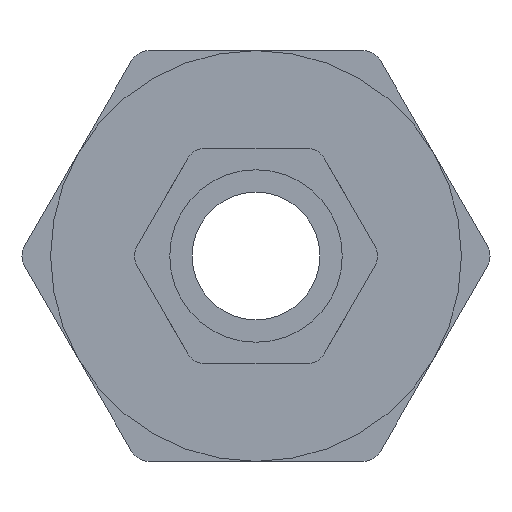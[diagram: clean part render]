
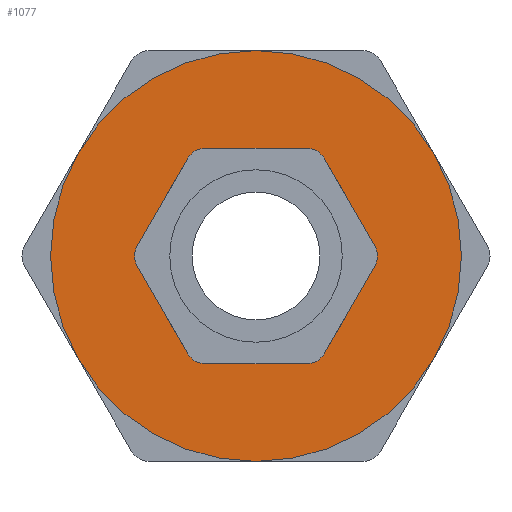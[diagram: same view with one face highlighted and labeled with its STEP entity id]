
A CAD part, left-side view. The second image highlights one B-rep face of the part: STEP entity #1077.
In plain terms, the highlighted planar face has unit normal (-1, 0, 0).
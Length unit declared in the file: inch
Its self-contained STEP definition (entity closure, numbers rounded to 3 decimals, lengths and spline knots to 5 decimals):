
#14=FACE_BOUND('',#184,.T.);
#62=CIRCLE('',#1176,1.);
#63=CIRCLE('',#1177,0.525);
#124=FACE_OUTER_BOUND('',#183,.T.);
#183=EDGE_LOOP('',(#738));
#184=EDGE_LOOP('',(#739));
#439=VERTEX_POINT('',#1695);
#440=VERTEX_POINT('',#1697);
#556=EDGE_CURVE('',#439,#439,#62,.T.);
#557=EDGE_CURVE('',#440,#440,#63,.T.);
#738=ORIENTED_EDGE('',*,*,#556,.T.);
#739=ORIENTED_EDGE('',*,*,#557,.F.);
#975=PLANE('',#1175);
#1077=ADVANCED_FACE('',(#124,#14),#975,.T.);
#1175=AXIS2_PLACEMENT_3D('',#1694,#1366,#1367);
#1176=AXIS2_PLACEMENT_3D('',#1696,#1368,#1369);
#1177=AXIS2_PLACEMENT_3D('',#1698,#1370,#1371);
#1366=DIRECTION('center_axis',(-1.,0.,0.));
#1367=DIRECTION('ref_axis',(0.,0.,1.));
#1368=DIRECTION('center_axis',(-1.,0.,0.));
#1369=DIRECTION('ref_axis',(0.,0.,-1.));
#1370=DIRECTION('center_axis',(-1.,0.,0.));
#1371=DIRECTION('ref_axis',(0.,1.,0.));
#1694=CARTESIAN_POINT('Origin',(0.55,0.,0.));
#1695=CARTESIAN_POINT('',(0.55,0.,1.));
#1696=CARTESIAN_POINT('Origin',(0.55,0.,0.));
#1697=CARTESIAN_POINT('',(0.55,-0.525,0.));
#1698=CARTESIAN_POINT('Origin',(0.55,0.,0.));
